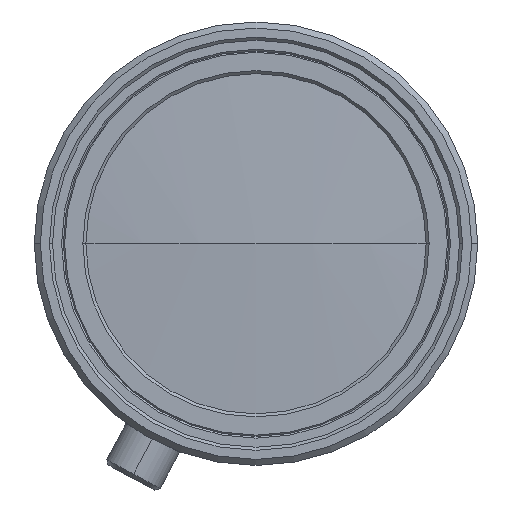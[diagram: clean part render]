
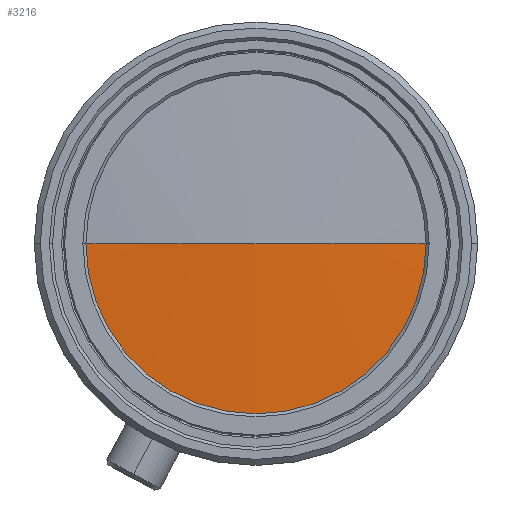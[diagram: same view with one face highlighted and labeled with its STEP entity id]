
A CAD part, left-side view. The second image highlights one B-rep face of the part: STEP entity #3216.
In plain terms, the highlighted spherical face has radius 172.5 mm.
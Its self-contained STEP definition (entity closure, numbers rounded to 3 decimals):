
#55 = CIRCLE ( 'NONE', #2705, 14. ) ;
#206 = VERTEX_POINT ( 'NONE', #1891 ) ;
#257 = AXIS2_PLACEMENT_3D ( 'NONE', #2004, #1994, #1807 ) ;
#293 = CARTESIAN_POINT ( 'NONE',  ( 63.87, 0., 0. ) ) ;
#502 = SPHERICAL_SURFACE ( 'NONE', #3052, 172.5 ) ;
#532 = EDGE_CURVE ( 'NONE', #2563, #206, #3257, .T. ) ;
#1039 = DIRECTION ( 'NONE',  ( 1., 0., 0. ) ) ;
#1088 = VERTEX_POINT ( 'NONE', #2282 ) ;
#1112 = AXIS2_PLACEMENT_3D ( 'NONE', #2756, #1259, #3025 ) ;
#1131 = EDGE_CURVE ( 'NONE', #206, #1088, #55, .T. ) ;
#1259 = DIRECTION ( 'NONE',  ( 0., 0., -1. ) ) ;
#1281 = EDGE_LOOP ( 'NONE', ( #1832, #3191, #1912 ) ) ;
#1550 = DIRECTION ( 'NONE',  ( 0., 0., 1. ) ) ;
#1807 = DIRECTION ( 'NONE',  ( 0., -1., 0. ) ) ;
#1832 = ORIENTED_EDGE ( 'NONE', *, *, #532, .F. ) ;
#1891 = CARTESIAN_POINT ( 'NONE',  ( -108.061, -14., 0. ) ) ;
#1912 = ORIENTED_EDGE ( 'NONE', *, *, #1131, .F. ) ;
#1994 = DIRECTION ( 'NONE',  ( 0., 0., 1. ) ) ;
#2004 = CARTESIAN_POINT ( 'NONE',  ( 63.87, 0., 0. ) ) ;
#2278 = EDGE_CURVE ( 'NONE', #2563, #1088, #2802, .T. ) ;
#2282 = CARTESIAN_POINT ( 'NONE',  ( -108.061, 14., 0. ) ) ;
#2424 = FACE_OUTER_BOUND ( 'NONE', #1281, .T. ) ;
#2550 = CARTESIAN_POINT ( 'NONE',  ( -108.061, 0., 0. ) ) ;
#2563 = VERTEX_POINT ( 'NONE', #2950 ) ;
#2705 = AXIS2_PLACEMENT_3D ( 'NONE', #2550, #1039, #2793 ) ;
#2756 = CARTESIAN_POINT ( 'NONE',  ( 63.87, 0., 0. ) ) ;
#2793 = DIRECTION ( 'NONE',  ( 0., 1., 0. ) ) ;
#2800 = DIRECTION ( 'NONE',  ( 0., 1., 0. ) ) ;
#2802 = CIRCLE ( 'NONE', #1112, 172.5 ) ;
#2950 = CARTESIAN_POINT ( 'NONE',  ( -108.63, 0., 0. ) ) ;
#3025 = DIRECTION ( 'NONE',  ( -1., 0., 0. ) ) ;
#3052 = AXIS2_PLACEMENT_3D ( 'NONE', #293, #1550, #2800 ) ;
#3191 = ORIENTED_EDGE ( 'NONE', *, *, #2278, .T. ) ;
#3216 = ADVANCED_FACE ( 'NONE', ( #2424 ), #502, .T. ) ;
#3257 = CIRCLE ( 'NONE', #257, 172.5 ) ;
